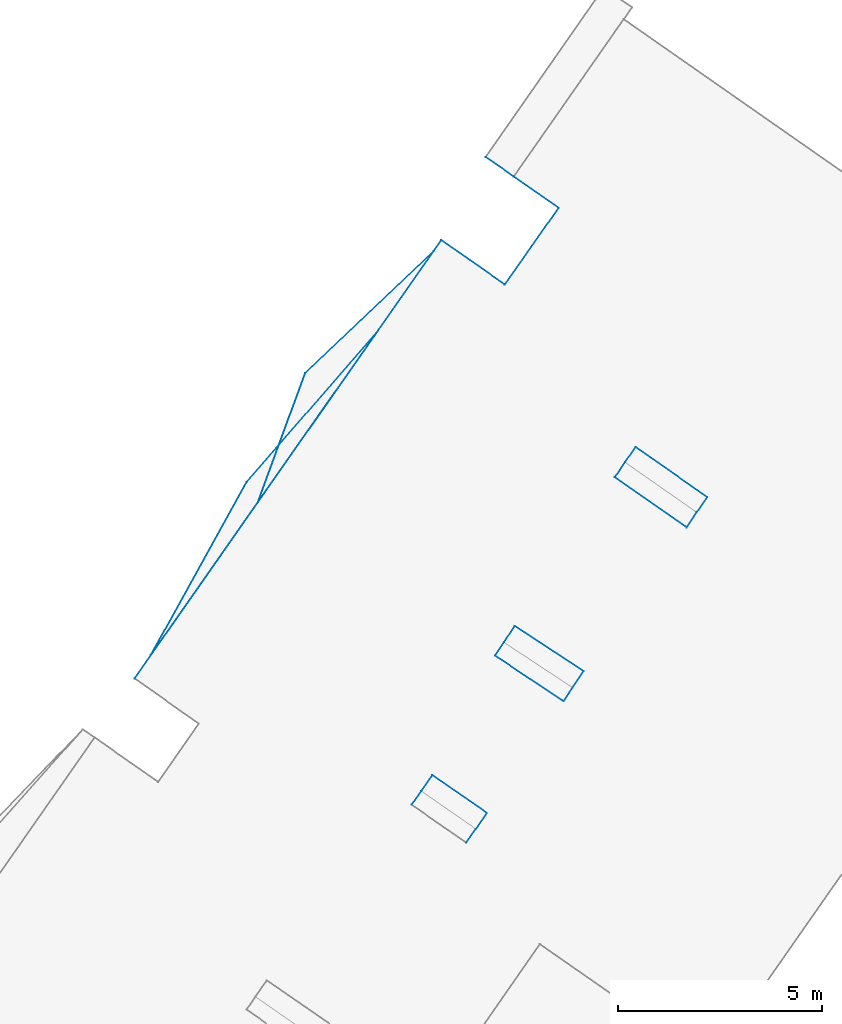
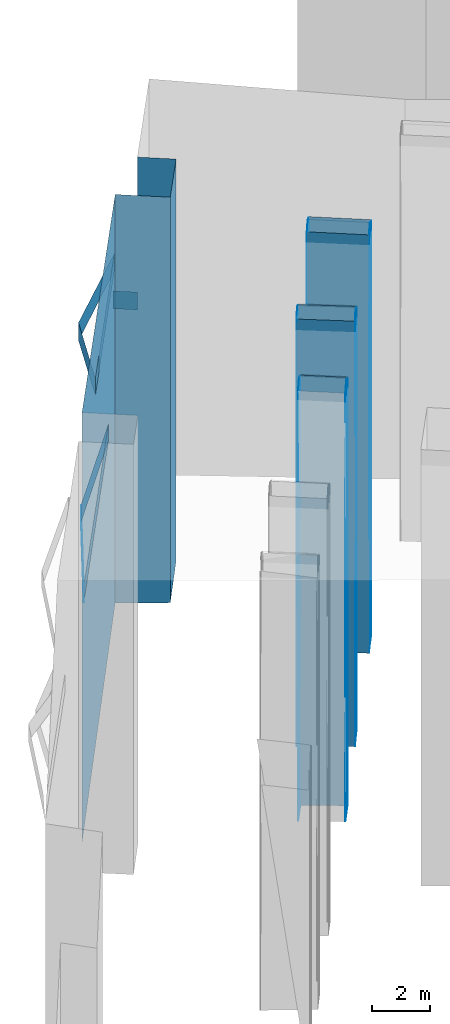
# Not in any storey, part 10 of 136: 35 walls.
"""IFC4 building model written with IfcOpenShell, lengths in metres."""

from ifc_helpers import new_model, entity, si_unit, converted_unit, frame, origin, place, context, subcontext, project, spatial, face_set, surface_model, element, save


model = new_model("IFC4")

# Units and contexts
model_context = context("Model", 3, precision=1e-05, world=origin())
body_context = subcontext(model_context, "Body", "Model", "MODEL_VIEW")
ifc_project = project(units=[converted_unit("PLANEANGLEUNIT", "DEGREE", entity("IfcRatioMeasure", 0.0174532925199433), si_unit("PLANEANGLEUNIT", "RADIAN"), dimensions=[0, 0, 0, 0, 0, 0, 0]), si_unit("AREAUNIT", "SQUARE_METRE"), si_unit("LENGTHUNIT", "METRE")], contexts=[model_context])

# Site, building
site_placement = place(None, origin())
site = spatial("IfcSite", under=ifc_project, at=site_placement, Name="_site")
building_placement = place(site_placement, origin())
building = spatial("IfcBuilding", under=site, at=building_placement, Name="_building")

# Walls
wall_1_placement = place(building_placement, origin())
element("IfcWall", 1, at=wall_1_placement, inside=building, Name="Wall", PredefinedType="NOTDEFINED", context=body_context, shape_type="SurfaceModel", body=[
    surface_model("IfcFaceBasedSurfaceModel", [(22.22, 42.84, 54.61), (21.97, 42.47, 54.4), (21.97, 42.47, 36.813), (22.22, 42.84, 36.853)], [face_set([[[0, 1, 2, 3]]])]),
])
wall_2_placement = place(building_placement, origin())
element("IfcWall", 2, at=wall_2_placement, inside=building, Name="Wall", PredefinedType="NOTDEFINED", context=body_context, shape_type="SurfaceModel", body=[
    surface_model("IfcFaceBasedSurfaceModel", [(15.22, 35.66, 54.34), (15.46, 36.0, 54.65), (15.46, 36.0, 36.275), (15.22, 35.66, 36.253)], [face_set([[[0, 1, 2, 3]]])]),
])
wall_3_placement = place(building_placement, origin())
element("IfcWall", 3, at=wall_3_placement, inside=building, Name="Wall", PredefinedType="NOTDEFINED", context=body_context, shape_type="SurfaceModel", body=[
    surface_model("IfcFaceBasedSurfaceModel", [(15.76, 49.25, 50.94), (11.45, 43.09, 50.94), (11.45, 43.09, 51.69), (15.76, 49.25, 51.69)], [face_set([[[0, 1, 2, 3]]])]),
])
wall_4_placement = place(building_placement, origin())
element("IfcWall", 4, at=wall_4_placement, inside=building, Name="Wall", PredefinedType="NOTDEFINED", context=body_context, shape_type="SurfaceModel", body=[
    surface_model("IfcFaceBasedSurfaceModel", [(20.21, 43.7, 54.4), (20.46, 44.07, 54.61), (20.46, 44.07, 36.833), (20.21, 43.7, 36.794)], [face_set([[[0, 1, 2, 3]]])]),
])
wall_5_placement = place(building_placement, origin())
element("IfcWall", 5, at=wall_5_placement, inside=building, Name="Wall", PredefinedType="NOTDEFINED", context=body_context, shape_type="SurfaceModel", body=[
    surface_model("IfcFaceBasedSurfaceModel", [(12.61, 46.26, 50.94), (15.76, 49.25, 50.94), (15.76, 49.25, 51.69), (12.61, 46.26, 51.69)], [face_set([[[0, 1, 2, 3]]])]),
])
wall_6_placement = place(building_placement, origin())
element("IfcWall", 6, at=wall_6_placement, inside=building, Name="Wall", PredefinedType="NOTDEFINED", context=body_context, shape_type="SurfaceModel", body=[
    surface_model("IfcFaceBasedSurfaceModel", [(11.45, 43.09, 50.94), (12.61, 46.26, 50.94), (12.61, 46.26, 51.69), (11.45, 43.09, 51.69)], [face_set([[[0, 1, 2, 3]]])]),
])
wall_7_placement = place(building_placement, origin())
element("IfcWall", 7, at=wall_7_placement, inside=building, Name="Wall", PredefinedType="NOTDEFINED", context=body_context, shape_type="SurfaceModel", body=[
    surface_model("IfcFaceBasedSurfaceModel", [(15.76, 49.25, 50.94), (11.45, 43.09, 50.94), (11.45, 43.09, 51.69), (15.76, 49.25, 51.69)], [face_set([[[0, 1, 2, 3]]])]),
])
wall_8_placement = place(building_placement, origin())
element("IfcWall", 8, at=wall_8_placement, inside=building, Name="Wall", PredefinedType="NOTDEFINED", context=body_context, shape_type="SurfaceModel", body=[
    surface_model("IfcFaceBasedSurfaceModel", [(12.61, 46.26, 50.94), (15.76, 49.25, 50.94), (15.76, 49.25, 51.69), (12.61, 46.26, 51.69)], [face_set([[[0, 1, 2, 3]]])]),
])
wall_9_placement = place(building_placement, origin())
element("IfcWall", 9, at=wall_9_placement, inside=building, Name="Wall", PredefinedType="NOTDEFINED", context=body_context, shape_type="SurfaceModel", body=[
    surface_model("IfcFaceBasedSurfaceModel", [(11.45, 43.09, 50.94), (12.61, 46.26, 50.94), (12.61, 46.26, 51.69), (11.45, 43.09, 51.69)], [face_set([[[0, 1, 2, 3]]])]),
])
wall_10_placement = place(building_placement, origin())
element("IfcWall", 10, at=wall_10_placement, inside=building, Name="Wall", PredefinedType="NOTDEFINED", context=body_context, shape_type="SurfaceModel", body=[
    surface_model("IfcFaceBasedSurfaceModel", [(17.27, 39.32, 54.42), (17.49, 39.65, 54.69), (17.49, 39.65, 36.462), (17.27, 39.32, 36.443)], [face_set([[[0, 1, 2, 3]]])]),
])
wall_11_placement = place(building_placement, origin())
element("IfcWall", 11, at=wall_11_placement, inside=building, Name="Wall", PredefinedType="NOTDEFINED", context=body_context, shape_type="SurfaceModel", body=[
    surface_model("IfcFaceBasedSurfaceModel", [(19.17, 38.54, 54.69), (18.95, 38.2, 54.42), (18.95, 38.2, 36.544), (19.17, 38.54, 36.564)], [face_set([[[0, 1, 2, 3]]])]),
])
for number, where, name in (
    (12, (0.0, 0.0, 0.0), "Wall"),
    (13, (0.0, 0.0, 0.0), "Wall"),
):
    element("IfcWall", number, at=place(building_placement, frame(where)), inside=building, Name=name, PredefinedType="NOTDEFINED", context=body_context, shape_type="SurfaceModel", body=[
        surface_model("IfcFaceBasedSurfaceModel", [(17.73, 51.08, 47.51), (17.04, 51.561, 47.51), (17.04, 51.561, 48.26), (17.73, 51.08, 48.26)], [face_set([[[0, 1, 2, 3]]])]),
    ])
wall_12_placement = place(building_placement, origin())
element("IfcWall", 14, at=wall_12_placement, inside=building, Name="Wall", PredefinedType="NOTDEFINED", context=body_context, shape_type="SurfaceModel", body=[
    surface_model("IfcFaceBasedSurfaceModel", [(22.48, 43.21, 54.41), (22.22, 42.84, 54.61), (22.22, 42.84, 36.853), (22.48, 43.21, 36.893)], [face_set([[[0, 1, 2, 3]]])]),
])
wall_13_placement = place(building_placement, origin())
element("IfcWall", 15, at=wall_13_placement, inside=building, Name="Wall", PredefinedType="NOTDEFINED", context=body_context, shape_type="SurfaceModel", body=[
    surface_model("IfcFaceBasedSurfaceModel", [(17.07, 35.46, 54.38), (16.8, 35.07, 54.65), (16.8, 35.07, 36.345), (17.07, 35.46, 36.37)], [face_set([[[0, 1, 2, 3]]])]),
])
wall_14_placement = place(building_placement, origin())
element("IfcWall", 16, at=wall_14_placement, inside=building, Name="Wall", PredefinedType="NOTDEFINED", context=body_context, shape_type="SurfaceModel", body=[
    surface_model("IfcFaceBasedSurfaceModel", [(15.73, 36.39, 54.38), (17.07, 35.46, 54.38), (17.07, 35.46, 36.37), (15.73, 36.39, 36.3)], [face_set([[[0, 1, 2, 3]]])]),
])
wall_15_placement = place(building_placement, origin())
element("IfcWall", 17, at=wall_15_placement, inside=building, Name="Wall", PredefinedType="NOTDEFINED", context=body_context, shape_type="SurfaceModel", body=[
    surface_model("IfcFaceBasedSurfaceModel", [(15.46, 36.0, 54.65), (15.73, 36.39, 54.38), (15.73, 36.39, 36.3), (15.46, 36.0, 36.275)], [face_set([[[0, 1, 2, 3]]])]),
])
wall_16_placement = place(building_placement, origin())
element("IfcWall", 18, at=wall_16_placement, inside=building, Name="Wall", PredefinedType="NOTDEFINED", context=body_context, shape_type="SurfaceModel", body=[
    surface_model("IfcFaceBasedSurfaceModel", [(20.72, 44.44, 54.41), (22.48, 43.21, 54.41), (22.48, 43.21, 36.893), (20.72, 44.44, 36.873)], [face_set([[[0, 1, 2, 3]]])]),
])
wall_17_placement = place(building_placement, origin())
element("IfcWall", 19, at=wall_17_placement, inside=building, Name="Wall", PredefinedType="NOTDEFINED", context=body_context, shape_type="SurfaceModel", body=[
    surface_model("IfcFaceBasedSurfaceModel", [(20.46, 44.07, 54.61), (20.72, 44.44, 54.41), (20.72, 44.44, 36.873), (20.46, 44.07, 36.833)], [face_set([[[0, 1, 2, 3]]])]),
])
wall_18_placement = place(building_placement, origin())
element("IfcWall", 20, at=wall_18_placement, inside=building, Name="Wall", PredefinedType="NOTDEFINED", context=body_context, shape_type="SurfaceModel", body=[
    surface_model("IfcFaceBasedSurfaceModel", [(19.44, 38.94, 54.42), (19.17, 38.54, 54.69), (19.17, 38.54, 36.564), (19.44, 38.94, 36.587)], [face_set([[[0, 1, 2, 3]]])]),
])
wall_19_placement = place(building_placement, origin())
element("IfcWall", 21, at=wall_19_placement, inside=building, Name="Wall", PredefinedType="NOTDEFINED", context=body_context, shape_type="SurfaceModel", body=[
    surface_model("IfcFaceBasedSurfaceModel", [(17.75, 40.05, 54.42), (19.44, 38.94, 54.42), (19.44, 38.94, 36.587), (17.75, 40.05, 36.484)], [face_set([[[0, 1, 2, 3]]])]),
])
wall_20_placement = place(building_placement, origin())
element("IfcWall", 22, at=wall_20_placement, inside=building, Name="Wall", PredefinedType="NOTDEFINED", context=body_context, shape_type="SurfaceModel", body=[
    surface_model("IfcFaceBasedSurfaceModel", [(17.49, 39.65, 54.69), (17.75, 40.05, 54.42), (17.75, 40.05, 36.484), (17.49, 39.65, 36.462)], [face_set([[[0, 1, 2, 3]]])]),
])
wall_21_placement = place(building_placement, origin())
element("IfcWall", 23, at=wall_21_placement, inside=building, Name="Wall", PredefinedType="NOTDEFINED", context=body_context, shape_type="SurfaceModel", body=[
    surface_model("IfcFaceBasedSurfaceModel", [(8.82, 39.33, 45.44), (11.17, 43.58, 45.44), (11.17, 43.58, 46.19), (8.82, 39.33, 46.19)], [face_set([[[0, 1, 2, 3]]])]),
])
wall_22_placement = place(building_placement, origin())
element("IfcWall", 24, at=wall_22_placement, inside=building, Name="Wall", PredefinedType="NOTDEFINED", context=body_context, shape_type="SurfaceModel", body=[
    surface_model("IfcFaceBasedSurfaceModel", [(14.4, 47.3, 45.44), (8.82, 39.33, 45.44), (8.82, 39.33, 46.19), (14.4, 47.3, 46.19)], [face_set([[[0, 1, 2, 3]]])]),
])
wall_23_placement = place(building_placement, origin())
element("IfcWall", 25, at=wall_23_placement, inside=building, Name="Wall", PredefinedType="NOTDEFINED", context=body_context, shape_type="SurfaceModel", body=[
    surface_model("IfcFaceBasedSurfaceModel", [(11.17, 43.58, 45.44), (14.4, 47.3, 45.44), (14.4, 47.3, 46.19), (11.17, 43.58, 46.19)], [face_set([[[0, 1, 2, 3]]])]),
])
wall_24_placement = place(building_placement, origin())
element("IfcWall", 26, at=wall_24_placement, inside=building, Name="Wall", PredefinedType="NOTDEFINED", context=body_context, shape_type="SurfaceModel", body=[
    surface_model("IfcFaceBasedSurfaceModel", [(8.82, 39.33, 45.44), (11.17, 43.58, 45.44), (11.17, 43.58, 46.19), (8.82, 39.33, 46.19)], [face_set([[[0, 1, 2, 3]]])]),
])
wall_25_placement = place(building_placement, origin())
element("IfcWall", 27, at=wall_25_placement, inside=building, Name="Wall", PredefinedType="NOTDEFINED", context=body_context, shape_type="SurfaceModel", body=[
    surface_model("IfcFaceBasedSurfaceModel", [(14.4, 47.3, 45.44), (8.82, 39.33, 45.44), (8.82, 39.33, 46.19), (14.4, 47.3, 46.19)], [face_set([[[0, 1, 2, 3]]])]),
])
wall_26_placement = place(building_placement, origin())
element("IfcWall", 28, at=wall_26_placement, inside=building, Name="Wall", PredefinedType="NOTDEFINED", context=body_context, shape_type="SurfaceModel", body=[
    surface_model("IfcFaceBasedSurfaceModel", [(11.17, 43.58, 45.44), (14.4, 47.3, 45.44), (14.4, 47.3, 46.19), (11.17, 43.58, 46.19)], [face_set([[[0, 1, 2, 3]]])]),
])
wall_27_placement = place(building_placement, origin())
element("IfcWall", 29, at=wall_27_placement, inside=building, Name="Wall", PredefinedType="NOTDEFINED", context=body_context, shape_type="SurfaceModel", body=[
    surface_model("IfcFaceBasedSurfaceModel", [(18.95, 38.2, 54.42), (17.27, 39.32, 54.42), (17.27, 39.32, 36.443), (18.95, 38.2, 36.544)], [face_set([[[0, 1, 2, 3]]])]),
])
wall_28_placement = place(building_placement, origin())
element("IfcWall", 30, at=wall_28_placement, inside=building, Name="Wall", PredefinedType="NOTDEFINED", context=body_context, shape_type="SurfaceModel", body=[
    surface_model("IfcFaceBasedSurfaceModel", [(21.97, 42.47, 54.4), (20.21, 43.7, 54.4), (20.21, 43.7, 36.794), (21.97, 42.47, 36.813)], [face_set([[[0, 1, 2, 3]]])]),
])
wall_29_placement = place(building_placement, origin())
element("IfcWall", 31, at=wall_29_placement, inside=building, Name="Wall", PredefinedType="NOTDEFINED", context=body_context, shape_type="SurfaceModel", body=[
    surface_model("IfcFaceBasedSurfaceModel", [(16.8, 35.07, 54.65), (16.56, 34.73, 54.34), (16.56, 34.73, 36.323), (16.8, 35.07, 36.345)], [face_set([[[0, 1, 2, 3]]])]),
])
wall_30_placement = place(building_placement, origin())
element("IfcWall", 32, at=wall_30_placement, inside=building, Name="Wall", PredefinedType="NOTDEFINED", context=body_context, shape_type="SurfaceModel", body=[
    surface_model("IfcFaceBasedSurfaceModel", [(18.83, 50.311, 53.93), (17.73, 51.08, 53.93), (17.73, 51.08, 36.961), (18.83, 50.311, 37.048)], [face_set([[[0, 1, 2, 3]]])]),
])
wall_31_placement = place(building_placement, origin())
element("IfcWall", 33, at=wall_31_placement, inside=building, Name="Wall", PredefinedType="NOTDEFINED", context=body_context, shape_type="SurfaceModel", body=[
    surface_model("IfcFaceBasedSurfaceModel", [(15.95, 49.521, 53.93), (17.51, 48.43, 53.93), (17.51, 48.43, 36.888), (15.95, 49.521, 36.754)], [face_set([[[0, 1, 2, 3]]])]),
])
wall_32_placement = place(building_placement, origin())
element("IfcWall", 34, at=wall_32_placement, inside=building, Name="Wall", PredefinedType="NOTDEFINED", context=body_context, shape_type="SurfaceModel", body=[
    surface_model("IfcFaceBasedSurfaceModel", [(8.42, 38.76, 53.93), (15.95, 49.521, 53.93), (15.95, 49.521, 36.754), (8.42, 38.76, 35.843)], [face_set([[[0, 1, 2, 3]]])]),
])
wall_33_placement = place(building_placement, origin())
element("IfcWall", 35, at=wall_33_placement, inside=building, Name="Wall", PredefinedType="NOTDEFINED", context=body_context, shape_type="SurfaceModel", body=[
    surface_model("IfcFaceBasedSurfaceModel", [(17.51, 48.43, 53.93), (18.83, 50.311, 53.93), (18.83, 50.311, 37.048), (17.51, 48.43, 36.888)], [face_set([[[0, 1, 2, 3]]])]),
])

save(model, "model.ifc")
